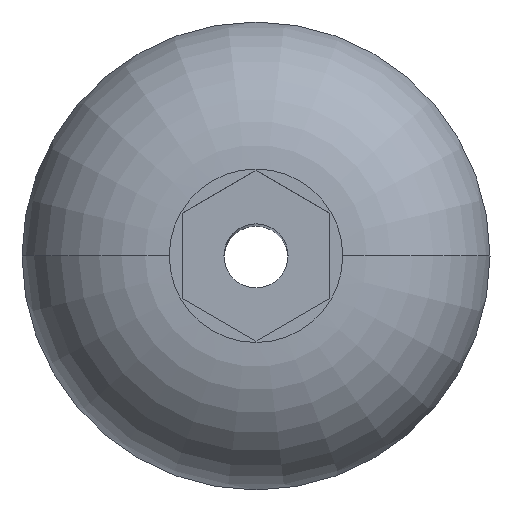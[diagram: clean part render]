
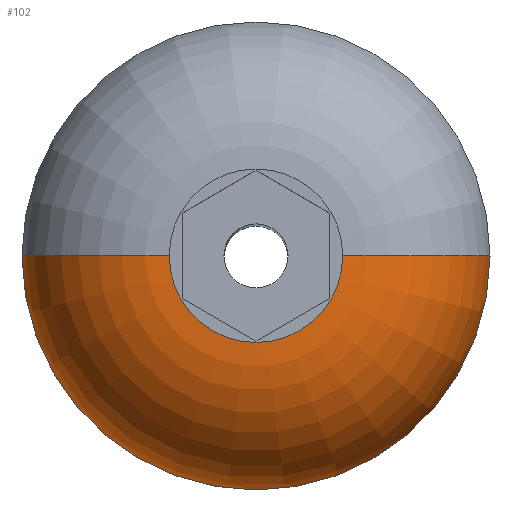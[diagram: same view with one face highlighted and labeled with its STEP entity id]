
A CAD part, top view. The second image highlights one B-rep face of the part: STEP entity #102.
In plain terms, the highlighted toroidal (fillet/blend) face has major radius 1.76 mm and minor radius 3 mm.
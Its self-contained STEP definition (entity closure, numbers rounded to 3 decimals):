
#20 = DIRECTION ( 'NONE',  ( -1., 0., 0. ) ) ;
#102 = ADVANCED_FACE ( 'NONE', ( #1227 ), #2763, .T. ) ;
#185 = CARTESIAN_POINT ( 'NONE',  ( 4.75, 0., 0. ) ) ;
#239 = CIRCLE ( 'NONE', #1111, 4.75 ) ;
#321 = DIRECTION ( 'NONE',  ( 1., 0., 0. ) ) ;
#354 = CIRCLE ( 'NONE', #2063, 3. ) ;
#407 = EDGE_CURVE ( 'NONE', #3640, #2834, #239, .T. ) ;
#814 = VERTEX_POINT ( 'NONE', #2236 ) ;
#820 = ORIENTED_EDGE ( 'NONE', *, *, #2191, .F. ) ;
#822 = AXIS2_PLACEMENT_3D ( 'NONE', #2630, #955, #321 ) ;
#955 = DIRECTION ( 'NONE',  ( 0., 0., 1. ) ) ;
#973 = AXIS2_PLACEMENT_3D ( 'NONE', #2547, #1450, #20 ) ;
#1101 = CARTESIAN_POINT ( 'NONE',  ( 0., 0., -0.25 ) ) ;
#1111 = AXIS2_PLACEMENT_3D ( 'NONE', #2366, #2375, #2677 ) ;
#1227 = FACE_OUTER_BOUND ( 'NONE', #3359, .T. ) ;
#1382 = DIRECTION ( 'NONE',  ( 0., 0., 1. ) ) ;
#1450 = DIRECTION ( 'NONE',  ( 0., 1., 0. ) ) ;
#1568 = CIRCLE ( 'NONE', #973, 3. ) ;
#2016 = CARTESIAN_POINT ( 'NONE',  ( -1.76, 0., 2.75 ) ) ;
#2062 = DIRECTION ( 'NONE',  ( 0., 0., -1. ) ) ;
#2063 = AXIS2_PLACEMENT_3D ( 'NONE', #2072, #2638, #2062 ) ;
#2072 = CARTESIAN_POINT ( 'NONE',  ( 1.76, 0., -0.25 ) ) ;
#2145 = ORIENTED_EDGE ( 'NONE', *, *, #3549, .T. ) ;
#2191 = EDGE_CURVE ( 'NONE', #3640, #3472, #1568, .T. ) ;
#2236 = CARTESIAN_POINT ( 'NONE',  ( 1.76, 0., 2.75 ) ) ;
#2324 = EDGE_CURVE ( 'NONE', #3472, #814, #2566, .T. ) ;
#2330 = ORIENTED_EDGE ( 'NONE', *, *, #2324, .F. ) ;
#2366 = CARTESIAN_POINT ( 'NONE',  ( 0., 0., 0. ) ) ;
#2375 = DIRECTION ( 'NONE',  ( 0., 0., 1. ) ) ;
#2547 = CARTESIAN_POINT ( 'NONE',  ( -1.76, 0., -0.25 ) ) ;
#2566 = CIRCLE ( 'NONE', #822, 1.76 ) ;
#2630 = CARTESIAN_POINT ( 'NONE',  ( 0., 0., 2.75 ) ) ;
#2638 = DIRECTION ( 'NONE',  ( 0., -1., 0. ) ) ;
#2677 = DIRECTION ( 'NONE',  ( 1., 0., 0. ) ) ;
#2763 = TOROIDAL_SURFACE ( 'NONE', #3479, 1.76, 3. ) ;
#2834 = VERTEX_POINT ( 'NONE', #185 ) ;
#3190 = ORIENTED_EDGE ( 'NONE', *, *, #407, .T. ) ;
#3337 = DIRECTION ( 'NONE',  ( 1., 0., 0. ) ) ;
#3359 = EDGE_LOOP ( 'NONE', ( #820, #3190, #2145, #2330 ) ) ;
#3468 = CARTESIAN_POINT ( 'NONE',  ( -4.75, 0., 0. ) ) ;
#3472 = VERTEX_POINT ( 'NONE', #2016 ) ;
#3479 = AXIS2_PLACEMENT_3D ( 'NONE', #1101, #1382, #3337 ) ;
#3549 = EDGE_CURVE ( 'NONE', #2834, #814, #354, .T. ) ;
#3640 = VERTEX_POINT ( 'NONE', #3468 ) ;
